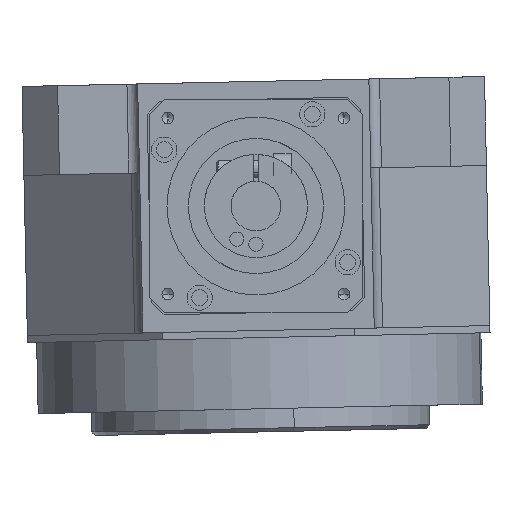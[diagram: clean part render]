
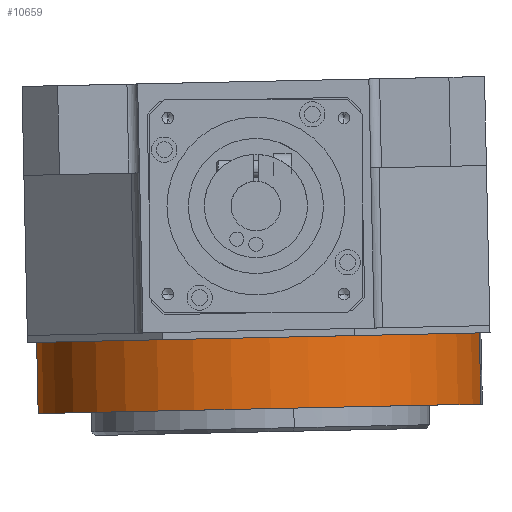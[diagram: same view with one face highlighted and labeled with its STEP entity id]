
A CAD part, front view. The second image highlights one B-rep face of the part: STEP entity #10659.
In plain terms, the highlighted cylindrical face has radius 62.5 mm (diameter 125 mm), a partial arc.
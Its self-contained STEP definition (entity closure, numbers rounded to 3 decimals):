
#404 = EDGE_CURVE ( 'NONE', #8810, #19196, #4506, .T. ) ;
#742 = AXIS2_PLACEMENT_3D ( 'NONE', #3382, #3347, #3302 ) ;
#2097 = CIRCLE ( 'NONE', #742, 62.5 ) ;
#2386 = DIRECTION ( 'NONE',  ( 0., 0., -1. ) ) ;
#2444 = CARTESIAN_POINT ( 'NONE',  ( 0., 0., 20. ) ) ;
#2574 = DIRECTION ( 'NONE',  ( -1., 0., 0. ) ) ;
#3302 = DIRECTION ( 'NONE',  ( -1., 0., 0. ) ) ;
#3347 = DIRECTION ( 'NONE',  ( 0., 0., 1. ) ) ;
#3364 = FACE_OUTER_BOUND ( 'NONE', #24160, .T. ) ;
#3382 = CARTESIAN_POINT ( 'NONE',  ( 0., 0., 0. ) ) ;
#3909 = CARTESIAN_POINT ( 'NONE',  ( -62.5, 0., 0. ) ) ;
#4506 = CIRCLE ( 'NONE', #21001, 62.5 ) ;
#5155 = DIRECTION ( 'NONE',  ( 0., 0., -1. ) ) ;
#5419 = CARTESIAN_POINT ( 'NONE',  ( -62.5, 0., 20. ) ) ;
#6641 = ORIENTED_EDGE ( 'NONE', *, *, #16942, .T. ) ;
#7386 = CARTESIAN_POINT ( 'NONE',  ( 62.5, 0., 0. ) ) ;
#8055 = ORIENTED_EDGE ( 'NONE', *, *, #8299, .F. ) ;
#8299 = EDGE_CURVE ( 'NONE', #8810, #11708, #12684, .T. ) ;
#8482 = CARTESIAN_POINT ( 'NONE',  ( -62.5, 0., 20. ) ) ;
#8700 = LINE ( 'NONE', #5419, #14426 ) ;
#8810 = VERTEX_POINT ( 'NONE', #10871 ) ;
#9320 = CYLINDRICAL_SURFACE ( 'NONE', #15620, 62.5 ) ;
#10422 = EDGE_CURVE ( 'NONE', #19196, #22254, #8700, .T. ) ;
#10659 = ADVANCED_FACE ( 'NONE', ( #3364 ), #9320, .T. ) ;
#10871 = CARTESIAN_POINT ( 'NONE',  ( 62.5, 0., 20. ) ) ;
#11424 = ORIENTED_EDGE ( 'NONE', *, *, #10422, .T. ) ;
#11708 = VERTEX_POINT ( 'NONE', #7386 ) ;
#12684 = LINE ( 'NONE', #20686, #20518 ) ;
#14426 = VECTOR ( 'NONE', #5155, 1000. ) ;
#15392 = ORIENTED_EDGE ( 'NONE', *, *, #404, .T. ) ;
#15620 = AXIS2_PLACEMENT_3D ( 'NONE', #2444, #2386, #2574 ) ;
#16942 = EDGE_CURVE ( 'NONE', #22254, #11708, #2097, .T. ) ;
#19196 = VERTEX_POINT ( 'NONE', #8482 ) ;
#20518 = VECTOR ( 'NONE', #21666, 1000. ) ;
#20686 = CARTESIAN_POINT ( 'NONE',  ( 62.5, 0., 20. ) ) ;
#21001 = AXIS2_PLACEMENT_3D ( 'NONE', #23656, #23731, #23808 ) ;
#21666 = DIRECTION ( 'NONE',  ( 0., 0., -1. ) ) ;
#22254 = VERTEX_POINT ( 'NONE', #3909 ) ;
#23656 = CARTESIAN_POINT ( 'NONE',  ( 0., 0., 20. ) ) ;
#23731 = DIRECTION ( 'NONE',  ( 0., 0., -1. ) ) ;
#23808 = DIRECTION ( 'NONE',  ( -1., 0., 0. ) ) ;
#24160 = EDGE_LOOP ( 'NONE', ( #8055, #15392, #11424, #6641 ) ) ;
